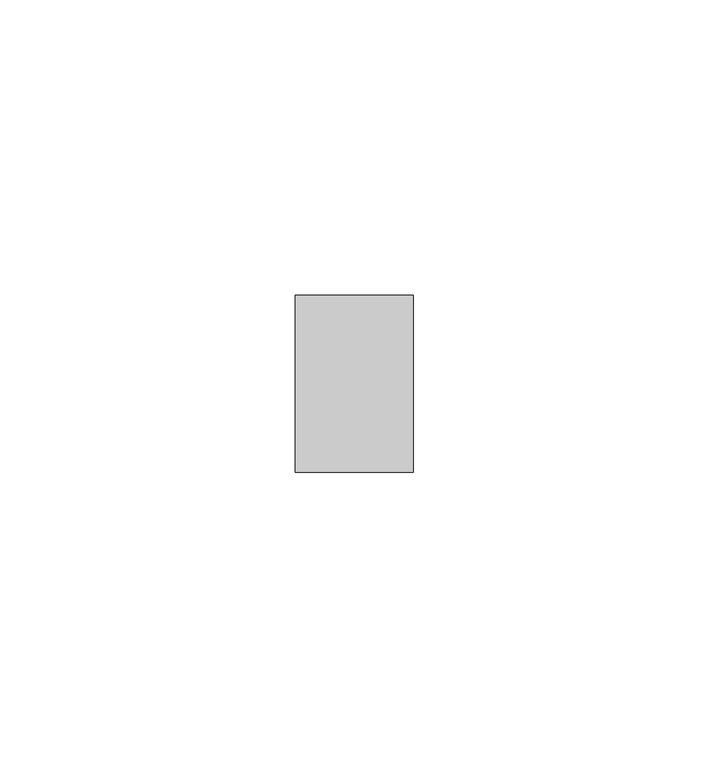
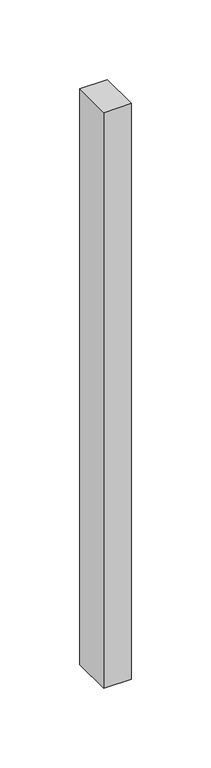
"""IFC4 building model written with IfcOpenShell, lengths in millimetres: member geometry, Прямоугольный импост : Квадрат 10 мм - Зазор между навесными плитами."""

from ifc_helpers import new_model, si_unit, frame, origin, place, context, project, spatial, polyline, outline, extrude, source, transform, mapped, element, save


def member_b9c6bb93(model_context):
    return source(origin(), model_context, "Body", "SweptSolid", [
        extrude(outline(polyline([(0.0, 15.0), (0.0, -15.0), (-20.0, -15.0), (-20.0, 15.0), (0.0, 15.0)])), frame((0.0, 0.0, -441.209783), z_axis=(0.0, 0.0, 1.0), x_axis=(1.0, 0.0, 0.0)), (0.0, 0.0, 1.0), 441.209783),
    ])


if __name__ == "__main__":
    model = new_model("IFC4")
    model_context = context("Model", 3, world=origin())
    ifc_project = project(units=[si_unit("LENGTHUNIT", "METRE", prefix="MILLI")], contexts=[model_context])
    site = spatial("IfcSite", under=ifc_project)
    building = spatial("IfcBuilding", under=site)
    placement = place(None, origin())
    member_shape = member_b9c6bb93(model_context)
    element("IfcMember", 1, ObjectType="Прямоугольный импост : Квадрат 10 мм - Зазор между навесными плитами", at=placement, inside=building, context=model_context, shape_type="MappedRepresentation", body=[
        mapped(member_shape, transform((0.0, 0.0, 0.0), x_axis=(1.0, 0.0, 0.0), y_axis=(0.0, 1.0, 0.0), z_axis=(0.0, 0.0, 1.0))),
    ])
    save(model, "model.ifc")
